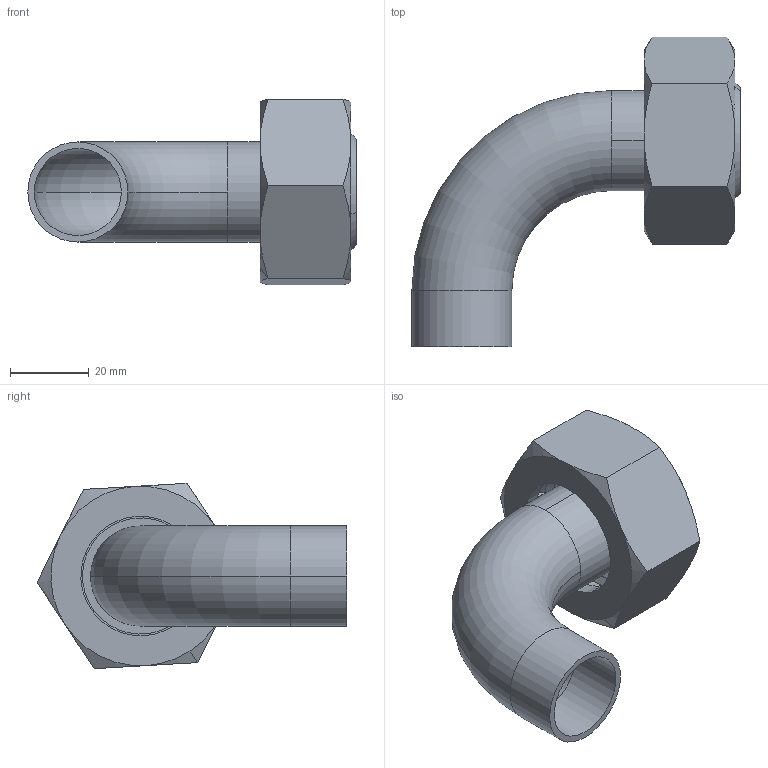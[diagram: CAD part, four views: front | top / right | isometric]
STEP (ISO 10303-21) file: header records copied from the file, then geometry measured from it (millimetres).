
FILE_DESCRIPTION (( 'STEP AP214' ), '1' );
FILE_NAME ('E2F1.0 REV1.STEP', '2025-06-13T15:59:10', ( '' ), ( '' ), 'SwSTEP 2.0', 'SolidWorks 2022', '' );
FILE_SCHEMA (( 'AUTOMOTIVE_DESIGN' ));
Length unit declared in the file: inch
Products named in the file (4): 13H1.0; E2S1.0; 14PR1.0 REV1; E2F1.0 REV1
Assembly tree (3 placements, depth 2):
  E2F1.0 REV1
    14PR1.0 REV1
    13H1.0
    E2S1.0
Bounding box: 83.36 x 78.65 x 47.07 mm (x, y, z)
Volume: 34627.2 mm3; surface area: 26730.3 mm2
Topology: 3 solids, 3 shells, 68 faces, 157 edges, 98 vertices
Faces by surface type: cylinder 28, plane 17, cone 16, torus 4, bspline 3
Entity records: 3256 total; most frequent: CARTESIAN_POINT 1608, ORIENTED_EDGE 314, DIRECTION 313, EDGE_CURVE 157, AXIS2_PLACEMENT_3D 135, VERTEX_POINT 98, EDGE_LOOP 77, ADVANCED_FACE 68
